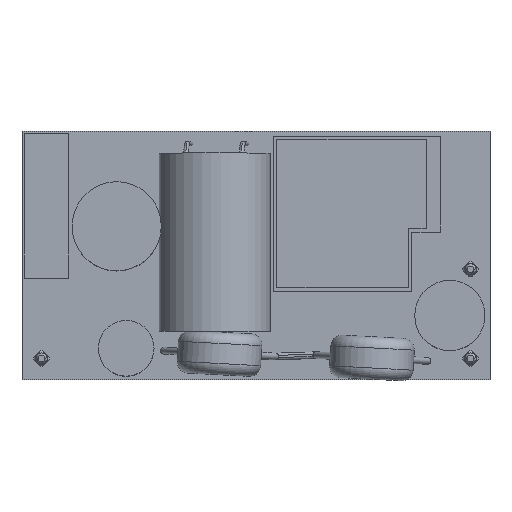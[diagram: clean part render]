
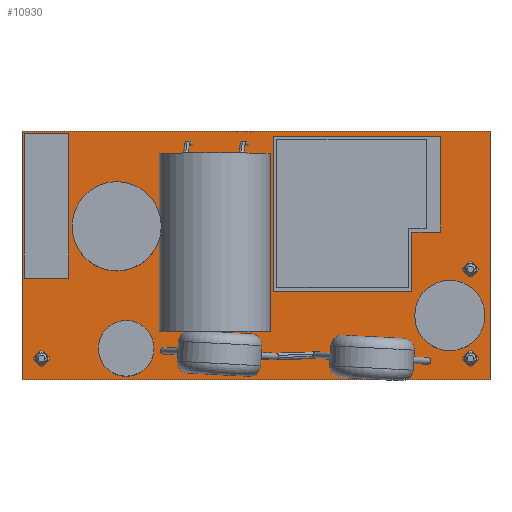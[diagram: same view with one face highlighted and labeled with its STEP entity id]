
A CAD part, top view. The second image highlights one B-rep face of the part: STEP entity #10930.
In plain terms, the highlighted planar face has unit normal (0, 0, 1).
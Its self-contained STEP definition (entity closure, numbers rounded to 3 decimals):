
#9940=CARTESIAN_POINT('',(0.,0.,0.));
#9950=DIRECTION('',(0.,0.,1.));
#9960=DIRECTION('',(1.,0.,0.));
#9970=AXIS2_PLACEMENT_3D('',#9940,#9950,#9960);
#9980=PLANE('',#9970);
#9990=CARTESIAN_POINT('',(191.8,129.9,0.));
#10000=DIRECTION('',(0.,0.,1.));
#10010=DIRECTION('',(0.,1.,0.));
#10020=AXIS2_PLACEMENT_3D('',#9990,#10000,#10010);
#10030=CIRCLE('',#10020,0.575);
#10040=CARTESIAN_POINT('',(191.8,130.475,0.));
#10050=VERTEX_POINT('',#10040);
#10060=CARTESIAN_POINT('',(191.8,129.325,0.));
#10070=VERTEX_POINT('',#10060);
#10080=EDGE_CURVE('',#10050,#10070,#10030,.T.);
#10090=ORIENTED_EDGE('',*,*,#10080,.F.);
#10100=EDGE_CURVE('',#10070,#10050,#10030,.T.);
#10110=ORIENTED_EDGE('',*,*,#10100,.F.);
#10120=EDGE_LOOP('',(#10110,#10090));
#10130=FACE_BOUND('',#10120,.T.);
#10140=CARTESIAN_POINT('',(230.3,137.9,0.));
#10150=DIRECTION('',(0.,0.,1.));
#10160=DIRECTION('',(0.,1.,0.));
#10170=AXIS2_PLACEMENT_3D('',#10140,#10150,#10160);
#10180=CIRCLE('',#10170,0.575);
#10190=CARTESIAN_POINT('',(230.3,138.475,0.));
#10200=VERTEX_POINT('',#10190);
#10210=CARTESIAN_POINT('',(230.3,137.325,0.));
#10220=VERTEX_POINT('',#10210);
#10230=EDGE_CURVE('',#10200,#10220,#10180,.T.);
#10240=ORIENTED_EDGE('',*,*,#10230,.F.);
#10250=EDGE_CURVE('',#10220,#10200,#10180,.T.);
#10260=ORIENTED_EDGE('',*,*,#10250,.F.);
#10270=EDGE_LOOP('',(#10260,#10240));
#10280=FACE_BOUND('',#10270,.T.);
#10290=CARTESIAN_POINT('',(191.8,140.65,0.));
#10300=DIRECTION('',(0.,0.,1.));
#10310=DIRECTION('',(0.,1.,0.));
#10320=AXIS2_PLACEMENT_3D('',#10290,#10300,#10310);
#10330=CIRCLE('',#10320,0.575);
#10340=CARTESIAN_POINT('',(191.8,141.225,0.));
#10350=VERTEX_POINT('',#10340);
#10360=CARTESIAN_POINT('',(191.8,140.075,0.));
#10370=VERTEX_POINT('',#10360);
#10380=EDGE_CURVE('',#10350,#10370,#10330,.T.);
#10390=ORIENTED_EDGE('',*,*,#10380,.F.);
#10400=EDGE_CURVE('',#10370,#10350,#10330,.T.);
#10410=ORIENTED_EDGE('',*,*,#10400,.F.);
#10420=EDGE_LOOP('',(#10410,#10390));
#10430=FACE_BOUND('',#10420,.T.);
#10440=CARTESIAN_POINT('',(230.3,129.9,0.));
#10450=DIRECTION('',(0.,0.,1.));
#10460=DIRECTION('',(0.,1.,0.));
#10470=AXIS2_PLACEMENT_3D('',#10440,#10450,#10460);
#10480=CIRCLE('',#10470,0.575);
#10490=CARTESIAN_POINT('',(230.3,130.475,0.));
#10500=VERTEX_POINT('',#10490);
#10510=CARTESIAN_POINT('',(230.3,129.325,0.));
#10520=VERTEX_POINT('',#10510);
#10530=EDGE_CURVE('',#10500,#10520,#10480,.T.);
#10540=ORIENTED_EDGE('',*,*,#10530,.F.);
#10550=EDGE_CURVE('',#10520,#10500,#10480,.T.);
#10560=ORIENTED_EDGE('',*,*,#10550,.F.);
#10570=EDGE_LOOP('',(#10560,#10540));
#10580=FACE_BOUND('',#10570,.T.);
#10590=CARTESIAN_POINT('',(190.05,150.3,0.));
#10600=DIRECTION('',(1.,0.,0.));
#10610=VECTOR('',#10600,1.);
#10620=LINE('',#10590,#10610);
#10630=CARTESIAN_POINT('',(190.05,150.3,0.));
#10640=VERTEX_POINT('',#10630);
#10650=CARTESIAN_POINT('',(232.05,150.3,0.));
#10660=VERTEX_POINT('',#10650);
#10670=EDGE_CURVE('',#10640,#10660,#10620,.T.);
#10680=ORIENTED_EDGE('',*,*,#10670,.F.);
#10690=CARTESIAN_POINT('',(232.05,128.,0.));
#10700=DIRECTION('',(0.,1.,0.));
#10710=VECTOR('',#10700,1.);
#10720=LINE('',#10690,#10710);
#10730=CARTESIAN_POINT('',(232.05,128.,-0.));
#10740=VERTEX_POINT('',#10730);
#10750=EDGE_CURVE('',#10740,#10660,#10720,.T.);
#10760=ORIENTED_EDGE('',*,*,#10750,.T.);
#10770=CARTESIAN_POINT('',(190.05,128.,0.));
#10780=DIRECTION('',(1.,0.,0.));
#10790=VECTOR('',#10780,1.);
#10800=LINE('',#10770,#10790);
#10810=CARTESIAN_POINT('',(190.05,128.,0.));
#10820=VERTEX_POINT('',#10810);
#10830=EDGE_CURVE('',#10820,#10740,#10800,.T.);
#10840=ORIENTED_EDGE('',*,*,#10830,.T.);
#10850=CARTESIAN_POINT('',(190.05,128.,0.));
#10860=DIRECTION('',(0.,1.,0.));
#10870=VECTOR('',#10860,1.);
#10880=LINE('',#10850,#10870);
#10890=EDGE_CURVE('',#10820,#10640,#10880,.T.);
#10900=ORIENTED_EDGE('',*,*,#10890,.F.);
#10910=EDGE_LOOP('',(#10900,#10840,#10760,#10680));
#10920=FACE_OUTER_BOUND('',#10910,.T.);
#10930=ADVANCED_FACE('',(#10130,#10280,#10430,#10580,#10920),#9980,.T.);
